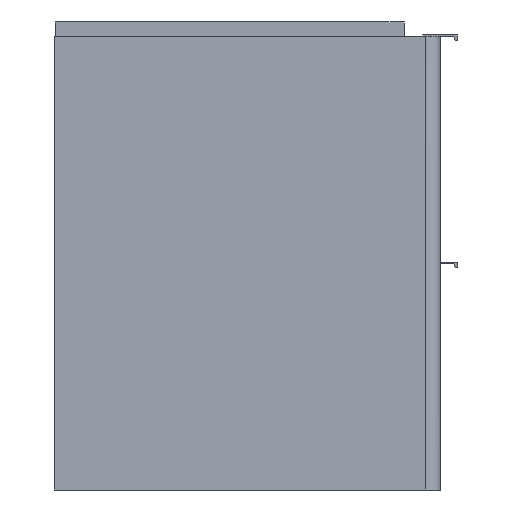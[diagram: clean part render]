
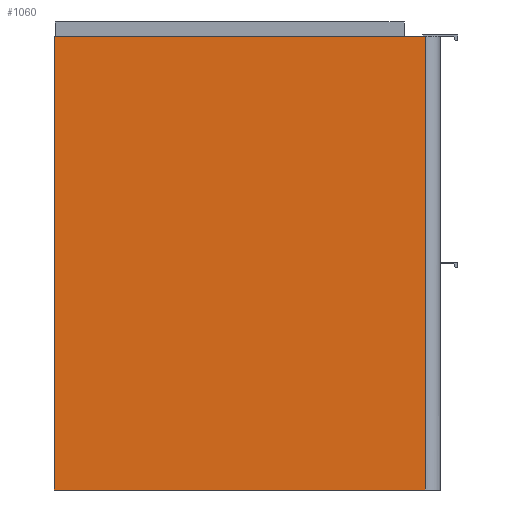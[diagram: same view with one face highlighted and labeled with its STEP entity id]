
A CAD part, left-side view. The second image highlights one B-rep face of the part: STEP entity #1060.
In plain terms, the highlighted planar face has unit normal (-1, 0, 0).
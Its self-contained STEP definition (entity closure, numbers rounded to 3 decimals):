
#1060=ADVANCED_FACE('',(#1657),#10995,.T.);
#1657=FACE_OUTER_BOUND('',#2352,.T.);
#2352=EDGE_LOOP('',(#5767,#5768,#5769,#5770));
#5767=ORIENTED_EDGE('',*,*,#7558,.F.);
#5768=ORIENTED_EDGE('',*,*,#7565,.T.);
#5769=ORIENTED_EDGE('',*,*,#7566,.T.);
#5770=ORIENTED_EDGE('',*,*,#7561,.T.);
#7558=EDGE_CURVE('',#10535,#10536,#9306,.T.);
#7561=EDGE_CURVE('',#10538,#10536,#9308,.T.);
#7565=EDGE_CURVE('',#10535,#10541,#9312,.T.);
#7566=EDGE_CURVE('',#10541,#10538,#9313,.T.);
#9306=B_SPLINE_CURVE_WITH_KNOTS('',1,(#20458,#20459),.UNSPECIFIED.,.F.,
 .F.,(2,2),(0.,515.),.UNSPECIFIED.);
#9308=B_SPLINE_CURVE_WITH_KNOTS('',1,(#20465,#20466),.UNSPECIFIED.,.F.,
 .F.,(2,2),(-421.,0.),.UNSPECIFIED.);
#9312=B_SPLINE_CURVE_WITH_KNOTS('',1,(#20473,#20474),.UNSPECIFIED.,.F.,
 .F.,(2,2),(-421.,0.),.UNSPECIFIED.);
#9313=B_SPLINE_CURVE_WITH_KNOTS('',1,(#20475,#20476),.UNSPECIFIED.,.F.,
 .F.,(2,2),(-515.,0.),.UNSPECIFIED.);
#10535=VERTEX_POINT('',#20446);
#10536=VERTEX_POINT('',#20447);
#10538=VERTEX_POINT('',#20449);
#10541=VERTEX_POINT('',#20452);
#10995=PLANE('',#12109);
#12109=AXIS2_PLACEMENT_3D('',#20440,#12680,$);
#12680=DIRECTION('',(-1.,0.,0.));
#20440=CARTESIAN_POINT('',(-307.5,261.22,-51.62));
#20446=CARTESIAN_POINT('',(-307.5,-202.,515.));
#20447=CARTESIAN_POINT('',(-307.5,-202.,0.));
#20449=CARTESIAN_POINT('',(-307.5,219.,0.));
#20452=CARTESIAN_POINT('',(-307.5,219.,515.));
#20458=CARTESIAN_POINT('',(-307.5,-202.,515.));
#20459=CARTESIAN_POINT('',(-307.5,-202.,0.));
#20465=CARTESIAN_POINT('',(-307.5,219.,0.));
#20466=CARTESIAN_POINT('',(-307.5,-202.,0.));
#20473=CARTESIAN_POINT('',(-307.5,-202.,515.));
#20474=CARTESIAN_POINT('',(-307.5,219.,515.));
#20475=CARTESIAN_POINT('',(-307.5,219.,515.));
#20476=CARTESIAN_POINT('',(-307.5,219.,0.));
